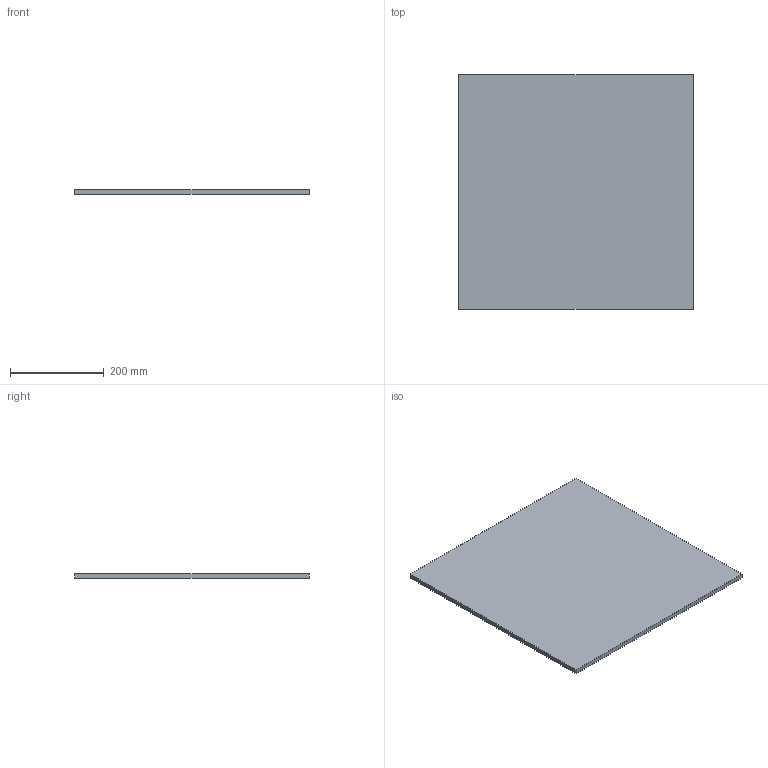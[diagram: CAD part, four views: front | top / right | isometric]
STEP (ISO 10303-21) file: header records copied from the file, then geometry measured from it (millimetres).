
FILE_DESCRIPTION(/* description */ (''),/* implementation_level */ '2;1');
FILE_NAME(/* name */ 'baza.step',/* time_stamp */ '2026-03-04T15:14:08+01:00',/* author */ (''),/* organization */ (''),/* preprocessor_version */ 'ST-DEVELOPER v20.1',/* originating_system */ 'Autodesk Translation Framework v14.24.0.0',/* authorisation */ '');
FILE_SCHEMA (('AUTOMOTIVE_DESIGN { 1 0 10303 214 3 1 1 }'));
Length unit declared in the file: millimetre
Products named in the file (1): baza
Bounding box: 500 x 500 x 10 mm (x, y, z)
Volume: 2500000 mm3; surface area: 520000 mm2
Topology: 1 solids, 1 shells, 6 faces, 12 edges, 8 vertices
Faces by surface type: plane 6
Entity records: 189 total; most frequent: CARTESIAN_POINT 27, DIRECTION 26, ORIENTED_EDGE 24, LINE 12, VECTOR 12, EDGE_CURVE 12, VERTEX_POINT 8, AXIS2_PLACEMENT_3D 7
